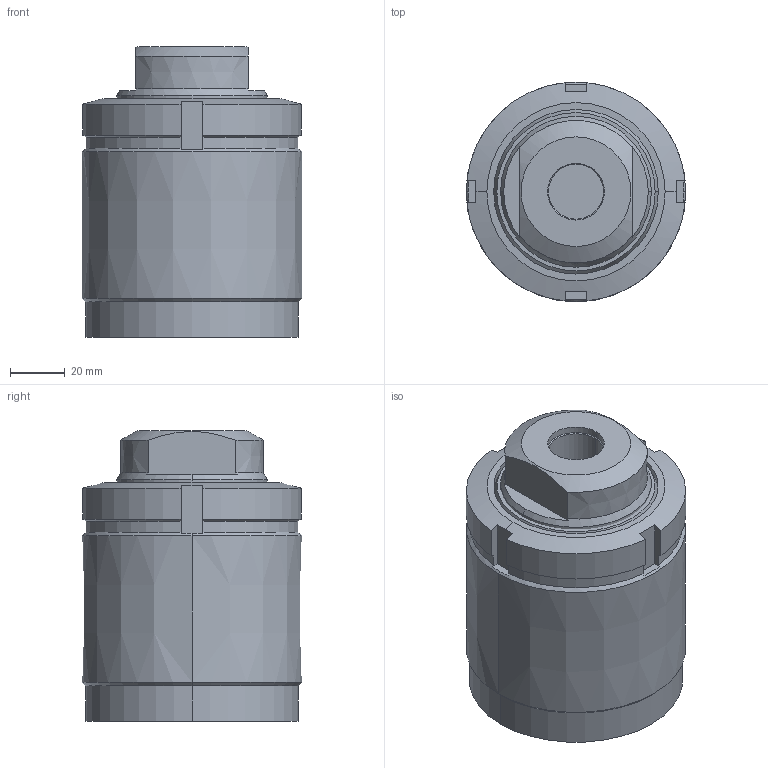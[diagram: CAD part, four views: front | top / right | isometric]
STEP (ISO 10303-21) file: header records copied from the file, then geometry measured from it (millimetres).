
FILE_DESCRIPTION((' '),'2;1');
FILE_NAME( 'TGP80-AM.x_t.stp', '2025-02-10T16:03:59', (' '), ('--- Datakit www.datakit.com---'), ' Datakit CrossCadWare V2024.1 Dec 21 2023', 'Mastercam 2025', ' ');
FILE_SCHEMA(('AUTOMOTIVE_DESIGN { 1 0 10303 214 1 1 1 1 }'));
Length unit declared in the file: millimetre
Products named in the file (1): TGP80-AM
Bounding box: 80 x 80 x 106 mm (x, y, z)
Volume: 506369.7 mm3; surface area: 47635.2 mm2
Topology: 2 solids, 2 shells, 90 faces, 221 edges, 142 vertices
Faces by surface type: plane 32, cone 28, cylinder 26, torus 4
Entity records: 2814 total; most frequent: CARTESIAN_POINT 662, DIRECTION 458, ORIENTED_EDGE 438, EDGE_CURVE 219, AXIS2_PLACEMENT_3D 190, VERTEX_POINT 142, CIRCLE 99, EDGE_LOOP 99
